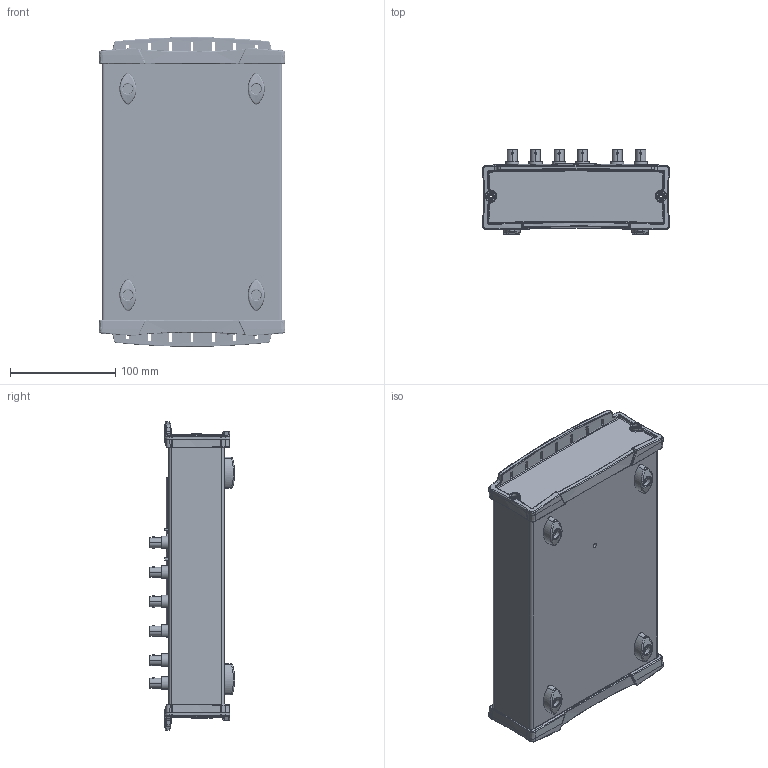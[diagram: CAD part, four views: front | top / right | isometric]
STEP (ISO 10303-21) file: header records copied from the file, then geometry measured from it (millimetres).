
FILE_DESCRIPTION((''),'2;1');
FILE_NAME('CU_USB-6221_BNC','2007-11-02T',('tvenable'),(''),'PRO/ENGINEER BY PARAMETRIC TECHNOLOGY CORPORATION, 2006080','PRO/ENGINEER BY PARAMETRIC TECHNOLOGY CORPORATION, 2006080','');
FILE_SCHEMA(('CONFIG_CONTROL_DESIGN'));
Products named in the file (1): CU_USB-6221_BNC
Bounding box: 177.29 x 81.15 x 294.13 mm (x, y, z)
Volume: 630900.7 mm3; surface area: 439416.1 mm2
Topology: 19 solids, 19 shells, 4727 faces, 11601 edges, 7514 vertices
Faces by surface type: plane 2794, cylinder 1257, bspline 414, cone 154, torus 98, extrusion 8, sphere 2
Entity records: 165421 total; most frequent: CARTESIAN_POINT 54482, ORIENTED_EDGE 23194, DIRECTION 22116, EDGE_CURVE 11597, VERTEX_POINT 7514, AXIS2_PLACEMENT_3D 7379, VECTOR 7358, LINE 7350
